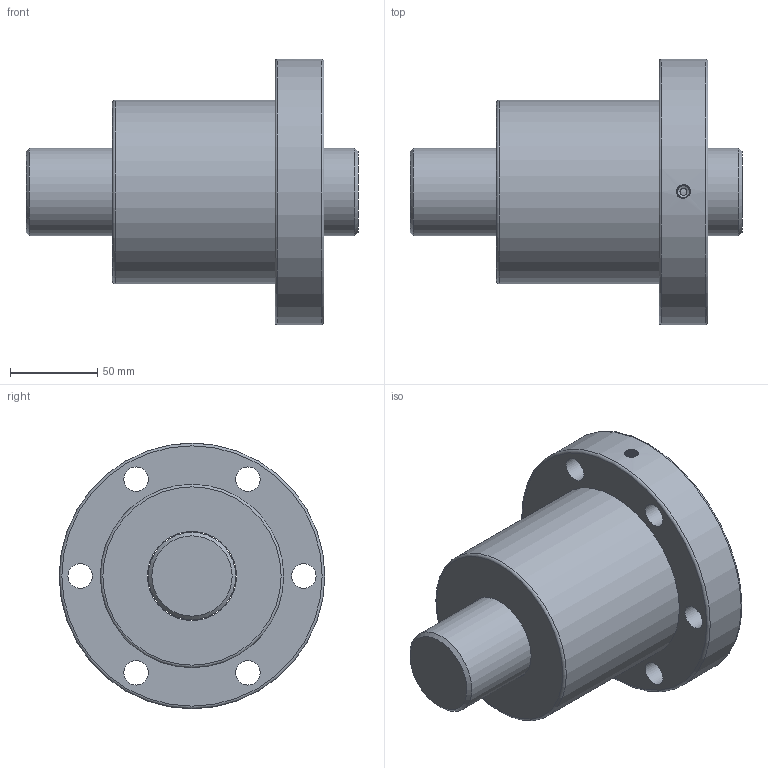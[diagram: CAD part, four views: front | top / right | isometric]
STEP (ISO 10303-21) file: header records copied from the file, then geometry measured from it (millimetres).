
FILE_DESCRIPTION(/* description */ ('Unknown','CAx-IF Rec.Pracs.---Representation and Presentation of Product Manufacturing Information (PMI)---4.0---2014-10-13','CAx-IF Rec.Pracs.---3D Tessellated Geometry---0.4---2014-09-14','2;1'),/* implementation_level */ '2;1');
FILE_NAME(/* name */ 'SFV05020-2.7',/* time_stamp */ '2020-12-08T11:13:41+08:00',/* author */ ('Unknown'),/* organization */ ('Unknown'),/* preprocessor_version */ 'ST-DEVELOPER v16.7',/* originating_system */ 'Solid Edge',/* authorisation */ 'Unknown');
FILE_SCHEMA (('AP242_MANAGED_MODEL_BASED_3D_ENGINEERING_MIM_LF { 1 0 10303 442 1 1 4 }'));
Length unit declared in the file: millimetre
Products named in the file (1): SFV05020-2.7
Bounding box: 190 x 152 x 152 mm (x, y, z)
Volume: 1398782.3 mm3; surface area: 136011 mm2
Topology: 2 solids, 2 shells, 40 faces, 86 edges, 57 vertices
Faces by surface type: cylinder 20, plane 12, torus 3, cone 3, bspline 2
Full cylindrical faces by diameter (mm): 4 x1, 6.917 x1, 14 x6, 20 x6, 50 x1, 51 x1, 105 x1, 152 x1
Entity records: 3222 total; most frequent: CARTESIAN_POINT 2386, DIRECTION 168, ORIENTED_EDGE 106, EDGE_LOOP 87, FACE_BOUND 87, AXIS2_PLACEMENT_3D 85, EDGE_CURVE 53, VERTEX_POINT 48
